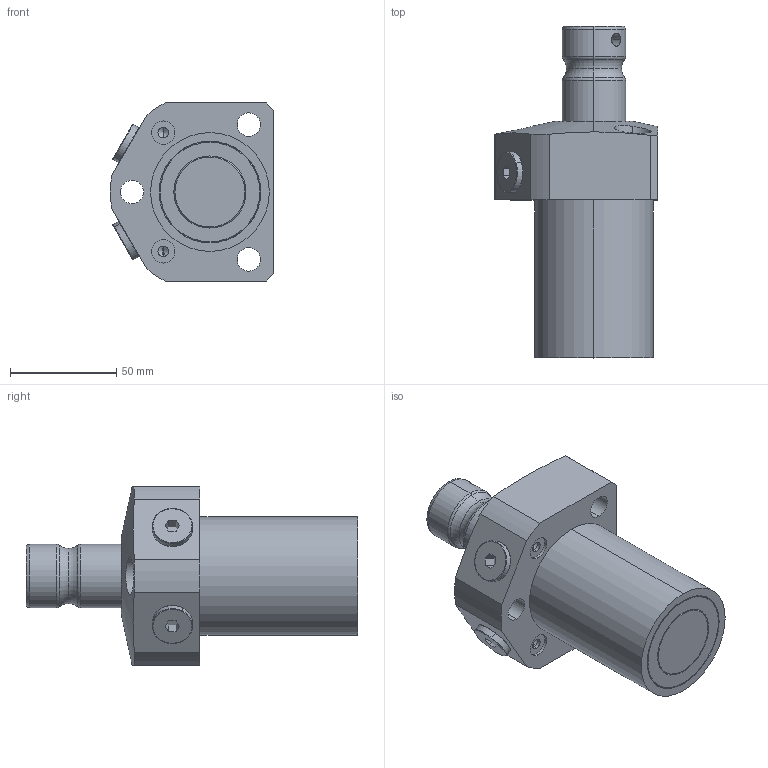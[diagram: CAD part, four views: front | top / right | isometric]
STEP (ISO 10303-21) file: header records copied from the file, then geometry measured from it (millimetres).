
FILE_DESCRIPTION (( 'STEP AP203' ), '1' );
FILE_NAME ('232001-CR.STEP', '2019-06-29T08:10:51', ( '微软用户' ), ( '微软中国' ), 'SwSTEP 2.0', 'SolidWorks 2014', '' );
FILE_SCHEMA (( 'CONFIG_CONTROL_DESIGN' ));
Length unit declared in the file: millimetre
Products named in the file (5): 葩璃 232001.02A^232001-CR; 葩璃 4BN-04WD^232001-CR; 葩璃 232001.01^232001-CR; 葩璃 232001.04^232001-CR; 232001-CR
Assembly tree (5 placements, depth 2):
  232001-CR
    葩璃 232001.02A^232001-CR
    葩璃 4BN-04WD^232001-CR  x2
    葩璃 232001.01^232001-CR
    葩璃 232001.04^232001-CR
Bounding box: 76.93 x 156.5 x 84 mm (x, y, z)
Volume: 444411.1 mm3; surface area: 56178.8 mm2
Topology: 5 solids, 5 shells, 137 faces, 292 edges, 182 vertices
Faces by surface type: cylinder 55, plane 48, cone 18, torus 16
Entity records: 4064 total; most frequent: CARTESIAN_POINT 973, DIRECTION 589, ORIENTED_EDGE 480, AXIS2_PLACEMENT_3D 246, EDGE_CURVE 240, VERTEX_POINT 152, EDGE_LOOP 138, CIRCLE 124
